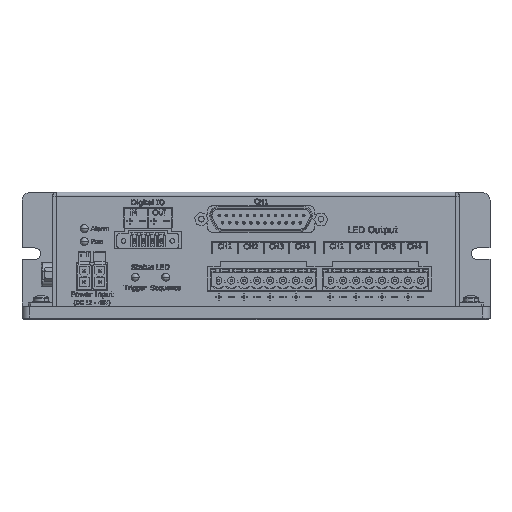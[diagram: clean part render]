
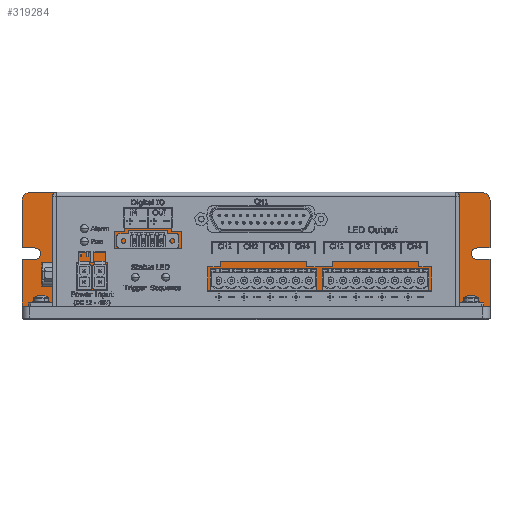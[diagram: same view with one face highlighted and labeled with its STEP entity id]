
A CAD part, top view. The second image highlights one B-rep face of the part: STEP entity #319284.
In plain terms, the highlighted planar face has unit normal (0, 0, 1).
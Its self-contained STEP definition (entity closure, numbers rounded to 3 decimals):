
#3707 = ORIENTED_EDGE ( 'NONE', *, *, #249407, .F. ) ;
#3933 = LINE ( 'NONE', #259958, #328474 ) ;
#8751 = EDGE_CURVE ( 'NONE', #192235, #35133, #3933, .T. ) ;
#9096 = CARTESIAN_POINT ( 'NONE',  ( 92., -22.5, 5. ) ) ;
#14814 = CARTESIAN_POINT ( 'NONE',  ( 92., -22.5, 5. ) ) ;
#16729 = DIRECTION ( 'NONE',  ( 1., 0., 0. ) ) ;
#19730 = CARTESIAN_POINT ( 'NONE',  ( -92., -3.75, 5. ) ) ;
#21893 = VERTEX_POINT ( 'NONE', #187107 ) ;
#22295 = DIRECTION ( 'NONE',  ( -1., 0., 0. ) ) ;
#23642 = VECTOR ( 'NONE', #157796, 1000. ) ;
#25872 = CARTESIAN_POINT ( 'NONE',  ( -87., 0.75, 5. ) ) ;
#29378 = CARTESIAN_POINT ( 'NONE',  ( -89., 22.5, 5. ) ) ;
#31422 = CARTESIAN_POINT ( 'NONE',  ( 89., 19.5, 5. ) ) ;
#35133 = VERTEX_POINT ( 'NONE', #293366 ) ;
#36263 = DIRECTION ( 'NONE',  ( 0., 1., 0. ) ) ;
#41446 = CARTESIAN_POINT ( 'NONE',  ( 92., 22.5, 5. ) ) ;
#42317 = CIRCLE ( 'NONE', #239516, 3. ) ;
#48199 = EDGE_CURVE ( 'NONE', #320815, #147927, #320229, .T. ) ;
#50069 = ORIENTED_EDGE ( 'NONE', *, *, #267672, .F. ) ;
#51325 = CARTESIAN_POINT ( 'NONE',  ( 92., -22.5, 5. ) ) ;
#56978 = DIRECTION ( 'NONE',  ( 0., -1., 0. ) ) ;
#57378 = ORIENTED_EDGE ( 'NONE', *, *, #306908, .F. ) ;
#58239 = CARTESIAN_POINT ( 'NONE',  ( -89., 19.5, 5. ) ) ;
#62818 = EDGE_CURVE ( 'NONE', #324595, #111871, #304950, .T. ) ;
#65667 = LINE ( 'NONE', #147427, #275220 ) ;
#67061 = ORIENTED_EDGE ( 'NONE', *, *, #219384, .T. ) ;
#72382 = CIRCLE ( 'NONE', #286977, 2.25 ) ;
#72756 = CARTESIAN_POINT ( 'NONE',  ( 92., 0.75, 5. ) ) ;
#73551 = VECTOR ( 'NONE', #56978, 1000. ) ;
#78127 = PLANE ( 'NONE',  #90080 ) ;
#90080 = AXIS2_PLACEMENT_3D ( 'NONE', #168772, #199740, #334389 ) ;
#93038 = CARTESIAN_POINT ( 'NONE',  ( -87., -1.5, 5. ) ) ;
#101489 = LINE ( 'NONE', #296057, #23642 ) ;
#105958 = DIRECTION ( 'NONE',  ( -1., 0., 0. ) ) ;
#107751 = VERTEX_POINT ( 'NONE', #272329 ) ;
#109204 = VECTOR ( 'NONE', #105958, 1000. ) ;
#111871 = VERTEX_POINT ( 'NONE', #359735 ) ;
#112706 = VECTOR ( 'NONE', #22295, 1000. ) ;
#113228 = ORIENTED_EDGE ( 'NONE', *, *, #144678, .T. ) ;
#120252 = VECTOR ( 'NONE', #203251, 1000. ) ;
#121540 = EDGE_CURVE ( 'NONE', #215377, #107751, #236034, .T. ) ;
#126689 = LINE ( 'NONE', #41446, #120252 ) ;
#136394 = DIRECTION ( 'NONE',  ( 1., 0., 0. ) ) ;
#138019 = EDGE_LOOP ( 'NONE', ( #167320, #342468, #159230, #67061, #163883, #178842, #3707, #179879, #50069, #206448, #113228, #306051, #243049, #57378, #235177 ) ) ;
#141365 = VERTEX_POINT ( 'NONE', #192139 ) ;
#144678 = EDGE_CURVE ( 'NONE', #192235, #141365, #65667, .T. ) ;
#145960 = AXIS2_PLACEMENT_3D ( 'NONE', #58239, #334652, #136394 ) ;
#147427 = CARTESIAN_POINT ( 'NONE',  ( -92., -22.5, 5. ) ) ;
#147927 = VERTEX_POINT ( 'NONE', #172871 ) ;
#153679 = VECTOR ( 'NONE', #154203, 1000. ) ;
#154203 = DIRECTION ( 'NONE',  ( 0., 1., 0. ) ) ;
#157796 = DIRECTION ( 'NONE',  ( 1., 0., 0. ) ) ;
#159230 = ORIENTED_EDGE ( 'NONE', *, *, #198669, .T. ) ;
#163803 = LINE ( 'NONE', #25872, #112706 ) ;
#163883 = ORIENTED_EDGE ( 'NONE', *, *, #48199, .T. ) ;
#165202 = CIRCLE ( 'NONE', #211748, 2.25 ) ;
#167320 = ORIENTED_EDGE ( 'NONE', *, *, #201460, .F. ) ;
#168772 = CARTESIAN_POINT ( 'NONE',  ( 0., 0., 5. ) ) ;
#172871 = CARTESIAN_POINT ( 'NONE',  ( -92., 19.5, 5. ) ) ;
#175963 = DIRECTION ( 'NONE',  ( 1., 0., 0. ) ) ;
#176379 = CARTESIAN_POINT ( 'NONE',  ( 87., -3.75, 5. ) ) ;
#176443 = LINE ( 'NONE', #14814, #353608 ) ;
#178842 = ORIENTED_EDGE ( 'NONE', *, *, #355857, .T. ) ;
#179879 = ORIENTED_EDGE ( 'NONE', *, *, #62818, .F. ) ;
#180015 = DIRECTION ( 'NONE',  ( 1., 0., 0. ) ) ;
#187107 = CARTESIAN_POINT ( 'NONE',  ( 87., 0.75, 5. ) ) ;
#188748 = EDGE_CURVE ( 'NONE', #285876, #217737, #307703, .T. ) ;
#192139 = CARTESIAN_POINT ( 'NONE',  ( -92., -22.5, 5. ) ) ;
#192235 = VERTEX_POINT ( 'NONE', #19730 ) ;
#198669 = EDGE_CURVE ( 'NONE', #107751, #356986, #42317, .T. ) ;
#199740 = DIRECTION ( 'NONE',  ( 0., 0., 1. ) ) ;
#201460 = EDGE_CURVE ( 'NONE', #215377, #21893, #324254, .T. ) ;
#202234 = DIRECTION ( 'NONE',  ( 0., 0., 1. ) ) ;
#203251 = DIRECTION ( 'NONE',  ( -1., 0., 0. ) ) ;
#203311 = CARTESIAN_POINT ( 'NONE',  ( 87., -1.5, 5. ) ) ;
#206448 = ORIENTED_EDGE ( 'NONE', *, *, #8751, .F. ) ;
#209232 = DIRECTION ( 'NONE',  ( 0., -1., 0. ) ) ;
#211748 = AXIS2_PLACEMENT_3D ( 'NONE', #203311, #314215, #175963 ) ;
#215377 = VERTEX_POINT ( 'NONE', #72756 ) ;
#215852 = VECTOR ( 'NONE', #36263, 1000. ) ;
#217737 = VERTEX_POINT ( 'NONE', #298197 ) ;
#219384 = EDGE_CURVE ( 'NONE', #356986, #320815, #126689, .T. ) ;
#223728 = CARTESIAN_POINT ( 'NONE',  ( 89., 22.5, 5. ) ) ;
#232347 = EDGE_CURVE ( 'NONE', #21893, #254900, #165202, .T. ) ;
#232489 = CARTESIAN_POINT ( 'NONE',  ( 92., -22.5, 5. ) ) ;
#235177 = ORIENTED_EDGE ( 'NONE', *, *, #232347, .F. ) ;
#235641 = CARTESIAN_POINT ( 'NONE',  ( -84.75, -1.5, 5. ) ) ;
#236034 = LINE ( 'NONE', #232489, #215852 ) ;
#236721 = EDGE_CURVE ( 'NONE', #141365, #285876, #176443, .T. ) ;
#239516 = AXIS2_PLACEMENT_3D ( 'NONE', #31422, #311274, #16729 ) ;
#243049 = ORIENTED_EDGE ( 'NONE', *, *, #188748, .T. ) ;
#244180 = CARTESIAN_POINT ( 'NONE',  ( 87., 0.75, 5. ) ) ;
#244951 = CARTESIAN_POINT ( 'NONE',  ( -87., -1.5, 5. ) ) ;
#249407 = EDGE_CURVE ( 'NONE', #111871, #270377, #163803, .T. ) ;
#249649 = CARTESIAN_POINT ( 'NONE',  ( -92., -22.5, 5. ) ) ;
#254900 = VERTEX_POINT ( 'NONE', #176379 ) ;
#259958 = CARTESIAN_POINT ( 'NONE',  ( -87., -3.75, 5. ) ) ;
#267672 = EDGE_CURVE ( 'NONE', #35133, #324595, #72382, .T. ) ;
#270377 = VERTEX_POINT ( 'NONE', #318752 ) ;
#272329 = CARTESIAN_POINT ( 'NONE',  ( 92., 19.5, 5. ) ) ;
#275181 = LINE ( 'NONE', #249649, #73551 ) ;
#275220 = VECTOR ( 'NONE', #209232, 1000. ) ;
#285876 = VERTEX_POINT ( 'NONE', #51325 ) ;
#286977 = AXIS2_PLACEMENT_3D ( 'NONE', #244951, #319620, #299528 ) ;
#290766 = DIRECTION ( 'NONE',  ( 1., 0., 0. ) ) ;
#293366 = CARTESIAN_POINT ( 'NONE',  ( -87., -3.75, 5. ) ) ;
#296057 = CARTESIAN_POINT ( 'NONE',  ( 87., -3.75, 5. ) ) ;
#296268 = FACE_OUTER_BOUND ( 'NONE', #138019, .T. ) ;
#298197 = CARTESIAN_POINT ( 'NONE',  ( 92., -3.75, 5. ) ) ;
#299528 = DIRECTION ( 'NONE',  ( -1., 0., 0. ) ) ;
#304950 = CIRCLE ( 'NONE', #357201, 2.25 ) ;
#306051 = ORIENTED_EDGE ( 'NONE', *, *, #236721, .T. ) ;
#306908 = EDGE_CURVE ( 'NONE', #254900, #217737, #101489, .T. ) ;
#307703 = LINE ( 'NONE', #9096, #153679 ) ;
#309576 = DIRECTION ( 'NONE',  ( -1., 0., 0. ) ) ;
#311274 = DIRECTION ( 'NONE',  ( 0., 0., 1. ) ) ;
#314215 = DIRECTION ( 'NONE',  ( 0., 0., 1. ) ) ;
#318752 = CARTESIAN_POINT ( 'NONE',  ( -92., 0.75, 5. ) ) ;
#319284 = ADVANCED_FACE ( 'NONE', ( #296268 ), #78127, .T. ) ;
#319620 = DIRECTION ( 'NONE',  ( 0., 0., 1. ) ) ;
#320229 = CIRCLE ( 'NONE', #145960, 3. ) ;
#320815 = VERTEX_POINT ( 'NONE', #29378 ) ;
#324254 = LINE ( 'NONE', #244180, #109204 ) ;
#324595 = VERTEX_POINT ( 'NONE', #235641 ) ;
#328474 = VECTOR ( 'NONE', #290766, 1000. ) ;
#334389 = DIRECTION ( 'NONE',  ( 1., 0., 0. ) ) ;
#334652 = DIRECTION ( 'NONE',  ( 0., 0., 1. ) ) ;
#342468 = ORIENTED_EDGE ( 'NONE', *, *, #121540, .T. ) ;
#353608 = VECTOR ( 'NONE', #180015, 1000. ) ;
#355857 = EDGE_CURVE ( 'NONE', #147927, #270377, #275181, .T. ) ;
#356986 = VERTEX_POINT ( 'NONE', #223728 ) ;
#357201 = AXIS2_PLACEMENT_3D ( 'NONE', #93038, #202234, #309576 ) ;
#359735 = CARTESIAN_POINT ( 'NONE',  ( -87., 0.75, 5. ) ) ;
